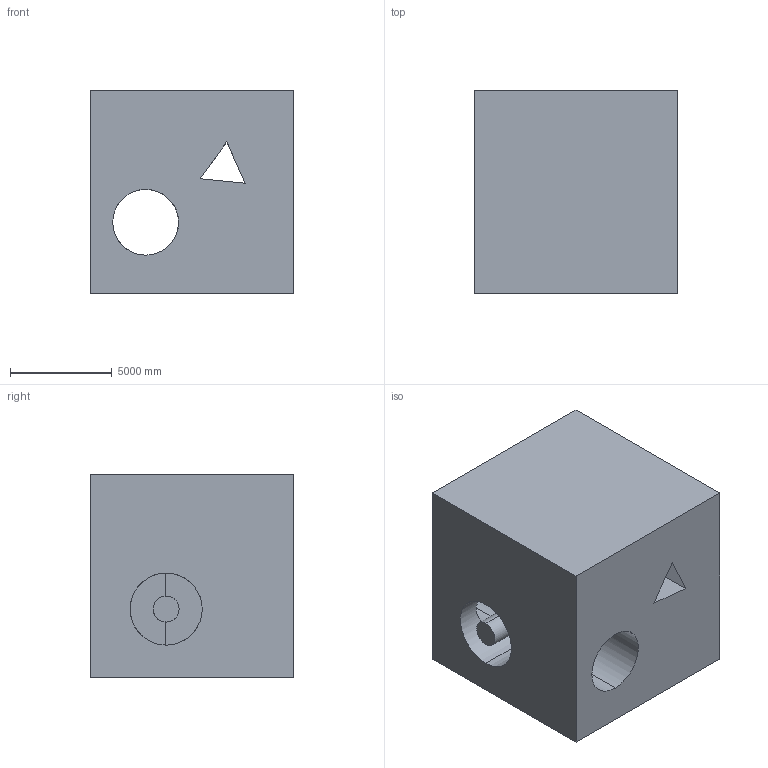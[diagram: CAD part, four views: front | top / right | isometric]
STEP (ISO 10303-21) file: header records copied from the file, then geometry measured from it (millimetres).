
FILE_DESCRIPTION (( 'STEP AP203' ), '1' );
FILE_NAME ('1382.STEP', '2022-08-18T14:09:19', ( 'user' ), ( '' ), 'SwSTEP 2.0', 'SolidWorks 2021', '' );
FILE_SCHEMA (( 'CONFIG_CONTROL_DESIGN' ));
Length unit declared in the file: centimetre
Products named in the file (1): 1382
Bounding box: 10000 x 10000 x 10000 mm (x, y, z)
Volume: 837310590529.7 mm3; surface area: 831929359.9 mm2
Topology: 2 solids, 2 shells, 31 faces, 81 edges, 54 vertices
Faces by surface type: cylinder 16, plane 15
Entity records: 2322 total; most frequent: CARTESIAN_POINT 1481, ORIENTED_EDGE 162, DIRECTION 147, EDGE_CURVE 81, VERTEX_POINT 54, VECTOR 51, LINE 51, AXIS2_PLACEMENT_3D 48
